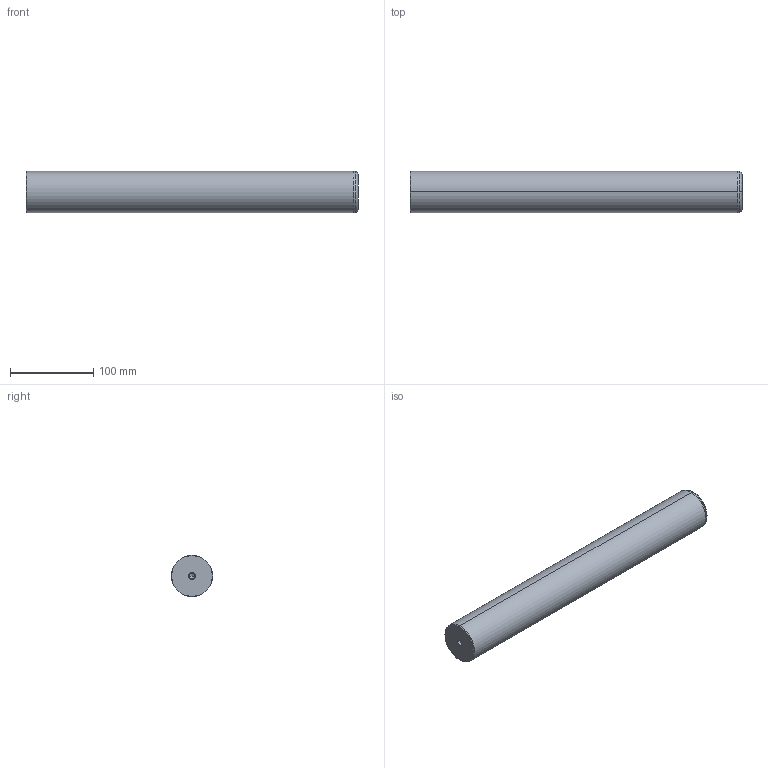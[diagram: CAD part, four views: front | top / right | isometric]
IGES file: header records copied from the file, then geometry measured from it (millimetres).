
Start section: START RECORD GO HERE.
Global section: file name: 720-50x400.igs; native system: DASSAULT SYSTEMES CATIA V5 R20 - www.3ds.com; preprocessor: CATIA Version 5 Release 20 ; author: Utente; organization: NB04-ASUS; date: 20201230.223817; units: millimetre
Bounding box: 400 x 50 x 50 mm (x, y, z)
Surface area: 67351.5 mm2 (no closed solid volume)
Topology: 0 solids, 0 shells, 22 faces, 120 edges, 116 vertices
Faces by surface type: revolution 20, plane 2
